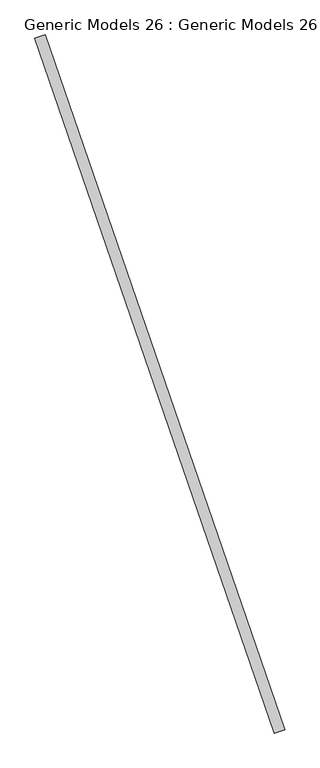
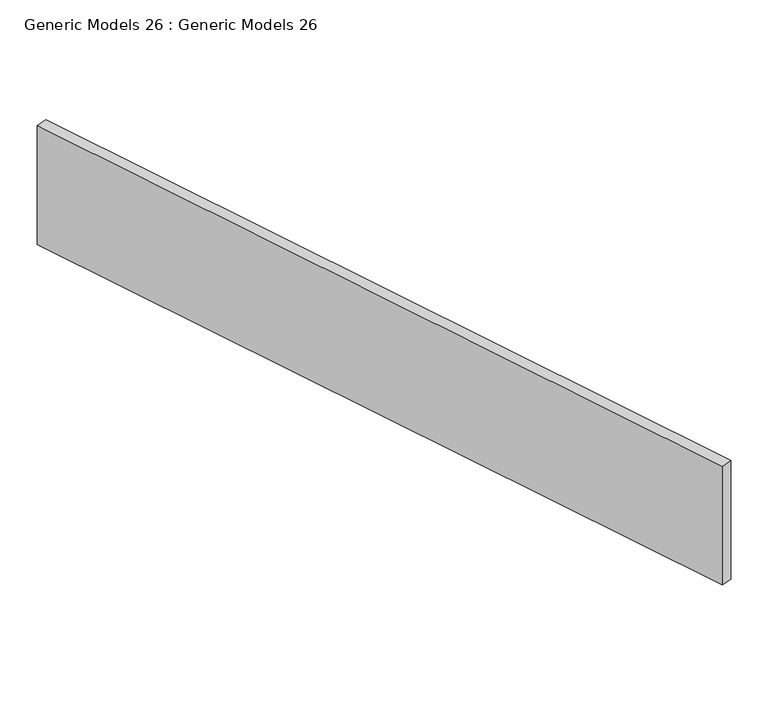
"""IFC4 building model written with IfcOpenShell, lengths in millimetres: proxy geometry, Generic Models 26 : Generic Models 26."""

from ifc_helpers import new_model, si_unit, frame, origin, place, context, project, spatial, polyline, outline, extrude, source, transform, mapped, element, save


def generic_models_26_generic_models_26_2b0313ee(model_context):
    return source(origin(), model_context, "Body", "SweptSolid", [
        extrude(outline(polyline([(461301.1186062, -25628.9524806), (459668.7962585, -20902.9051096), (459738.9903019, -20878.6608952), (461371.3126496, -25604.7082662), (461301.1186062, -25628.9524806)])), frame((0.0, 0.0, 1200.0), z_axis=(0.0, 0.0, 1.0), x_axis=(1.0, 0.0, 0.0)), (0.0, 0.0, 1.0), 800.0),
    ])


if __name__ == "__main__":
    model = new_model("IFC4")
    model_context = context("Model", 3, world=origin())
    ifc_project = project(units=[si_unit("LENGTHUNIT", "METRE", prefix="MILLI")], contexts=[model_context])
    site = spatial("IfcSite", under=ifc_project)
    building = spatial("IfcBuilding", under=site)
    placement = place(None, origin())
    generic_models_26_generic_models_26_shape = generic_models_26_generic_models_26_2b0313ee(model_context)
    element("IfcBuildingElementProxy", 1, Name="Generic Models 26 : Generic Models 26", ObjectType="Generic Models 26 : Generic Models 26", at=placement, inside=building, context=model_context, shape_type="MappedRepresentation", body=[
        mapped(generic_models_26_generic_models_26_shape, transform((0.0, 0.0, 0.0), x_axis=(1.0, 0.0, 0.0), y_axis=(0.0, 1.0, 0.0), z_axis=(0.0, 0.0, 1.0))),
    ])
    save(model, "model.ifc")
